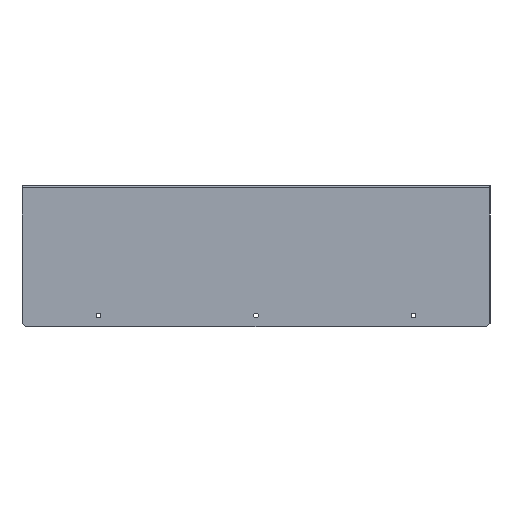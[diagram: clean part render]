
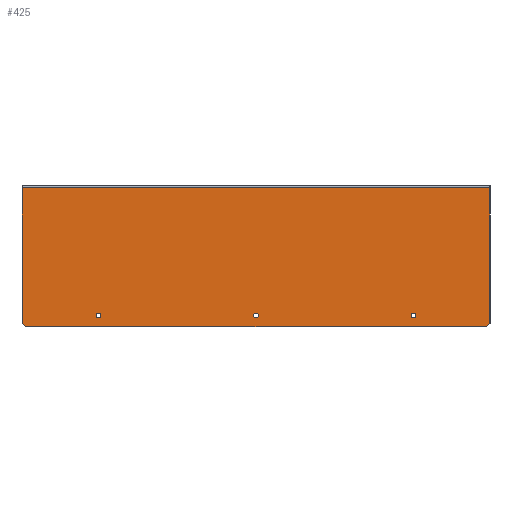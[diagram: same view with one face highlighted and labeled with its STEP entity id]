
A CAD part, left-side view. The second image highlights one B-rep face of the part: STEP entity #425.
In plain terms, the highlighted planar face has unit normal (-1, 0, 0).
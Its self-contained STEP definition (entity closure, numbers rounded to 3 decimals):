
#19 = CIRCLE ( 'NONE', #1746, 2.1 ) ;
#21 = EDGE_LOOP ( 'NONE', ( #781, #1698 ) ) ;
#29 = VERTEX_POINT ( 'NONE', #1299 ) ;
#60 = EDGE_CURVE ( 'NONE', #1209, #762, #872, .T. ) ;
#79 = VERTEX_POINT ( 'NONE', #1272 ) ;
#90 = FACE_OUTER_BOUND ( 'NONE', #1132, .T. ) ;
#97 = CARTESIAN_POINT ( 'NONE',  ( -63.814, -94.025, -11.418 ) ) ;
#105 = CARTESIAN_POINT ( 'NONE',  ( -63.814, -97.025, -23.846 ) ) ;
#123 = DIRECTION ( 'NONE',  ( 0., 0., -1. ) ) ;
#130 = DIRECTION ( 'NONE',  ( 0., 0., -1. ) ) ;
#131 = DIRECTION ( 'NONE',  ( 0., 0., -1. ) ) ;
#198 = VERTEX_POINT ( 'NONE', #212 ) ;
#205 = DIRECTION ( 'NONE',  ( 0., 0., -1. ) ) ;
#212 = CARTESIAN_POINT ( 'NONE',  ( -63.814, 236.054, 0.328 ) ) ;
#216 = ORIENTED_EDGE ( 'NONE', *, *, #1431, .T. ) ;
#223 = EDGE_CURVE ( 'NONE', #29, #1321, #19, .T. ) ;
#227 = CARTESIAN_POINT ( 'NONE',  ( -63.814, -104.975, -0.468 ) ) ;
#233 = CIRCLE ( 'NONE', #1259, 2.1 ) ;
#234 = DIRECTION ( 'NONE',  ( 0., 0., 1. ) ) ;
#236 = DIRECTION ( 'NONE',  ( 0., 1., 0. ) ) ;
#244 = CARTESIAN_POINT ( 'NONE',  ( -63.814, 301.134, 1.257 ) ) ;
#249 = FACE_BOUND ( 'NONE', #1678, .T. ) ;
#262 = DIRECTION ( 'NONE',  ( 1., 0., 0. ) ) ;
#281 = CARTESIAN_POINT ( 'NONE',  ( -63.814, -31.946, -1.772 ) ) ;
#286 = LINE ( 'NONE', #1673, #1568 ) ;
#345 = DIRECTION ( 'NONE',  ( 1., 0., 0. ) ) ;
#355 = AXIS2_PLACEMENT_3D ( 'NONE', #1664, #1374, #131 ) ;
#358 = CARTESIAN_POINT ( 'NONE',  ( -63.814, -97.025, 106.789 ) ) ;
#360 = CIRCLE ( 'NONE', #1389, 2.1 ) ;
#383 = DIRECTION ( 'NONE',  ( 0., 0., -1. ) ) ;
#385 = DIRECTION ( 'NONE',  ( 0., 0., -1. ) ) ;
#414 = DIRECTION ( 'NONE',  ( 0., 0.707, 0.707 ) ) ;
#418 = DIRECTION ( 'NONE',  ( 0., 0., -1. ) ) ;
#424 = DIRECTION ( 'NONE',  ( 0., -1., 0. ) ) ;
#425 = ADVANCED_FACE ( 'NONE', ( #675, #90, #1098, #249 ), #1088, .F. ) ;
#480 = CARTESIAN_POINT ( 'NONE',  ( -63.814, -31.946, 0.328 ) ) ;
#489 = VECTOR ( 'NONE', #424, 1000. ) ;
#517 = DIRECTION ( 'NONE',  ( 1., 0., 0. ) ) ;
#518 = ORIENTED_EDGE ( 'NONE', *, *, #657, .T. ) ;
#579 = EDGE_CURVE ( 'NONE', #1233, #754, #360, .T. ) ;
#593 = ORIENTED_EDGE ( 'NONE', *, *, #1124, .T. ) ;
#604 = EDGE_CURVE ( 'NONE', #1209, #680, #286, .T. ) ;
#605 = CARTESIAN_POINT ( 'NONE',  ( -63.814, 2.56, -11.418 ) ) ;
#642 = LINE ( 'NONE', #1491, #1289 ) ;
#655 = CIRCLE ( 'NONE', #1571, 2.1 ) ;
#657 = EDGE_CURVE ( 'NONE', #79, #680, #1814, .T. ) ;
#660 = CARTESIAN_POINT ( 'NONE',  ( -63.814, -122.683, 0.723 ) ) ;
#675 = FACE_BOUND ( 'NONE', #21, .T. ) ;
#680 = VERTEX_POINT ( 'NONE', #989 ) ;
#691 = ORIENTED_EDGE ( 'NONE', *, *, #1102, .T. ) ;
#754 = VERTEX_POINT ( 'NONE', #1254 ) ;
#762 = VERTEX_POINT ( 'NONE', #97 ) ;
#781 = ORIENTED_EDGE ( 'NONE', *, *, #223, .T. ) ;
#824 = DIRECTION ( 'NONE',  ( 1., 0., 0. ) ) ;
#828 = CARTESIAN_POINT ( 'NONE',  ( -63.814, 102.054, -1.772 ) ) ;
#850 = ORIENTED_EDGE ( 'NONE', *, *, #579, .T. ) ;
#859 = CARTESIAN_POINT ( 'NONE',  ( -63.814, 298.134, -11.418 ) ) ;
#872 = LINE ( 'NONE', #605, #489 ) ;
#895 = ORIENTED_EDGE ( 'NONE', *, *, #604, .F. ) ;
#899 = VERTEX_POINT ( 'NONE', #358 ) ;
#974 = CIRCLE ( 'NONE', #1208, 2.1 ) ;
#989 = CARTESIAN_POINT ( 'NONE',  ( -63.814, 301.134, -8.418 ) ) ;
#1065 = LINE ( 'NONE', #227, #1128 ) ;
#1069 = ORIENTED_EDGE ( 'NONE', *, *, #60, .T. ) ;
#1085 = CARTESIAN_POINT ( 'NONE',  ( -63.814, 236.054, -3.872 ) ) ;
#1088 = PLANE ( 'NONE',  #1683 ) ;
#1098 = FACE_BOUND ( 'NONE', #1728, .T. ) ;
#1102 = EDGE_CURVE ( 'NONE', #198, #1549, #1154, .T. ) ;
#1107 = VERTEX_POINT ( 'NONE', #1790 ) ;
#1116 = CARTESIAN_POINT ( 'NONE',  ( -63.814, 102.054, -1.772 ) ) ;
#1118 = CARTESIAN_POINT ( 'NONE',  ( -63.814, 102.054, 0.328 ) ) ;
#1124 = EDGE_CURVE ( 'NONE', #1107, #899, #1638, .T. ) ;
#1128 = VECTOR ( 'NONE', #1766, 1000. ) ;
#1132 = EDGE_LOOP ( 'NONE', ( #1069, #1623, #593, #216, #518, #895 ) ) ;
#1154 = CIRCLE ( 'NONE', #355, 2.1 ) ;
#1192 = ORIENTED_EDGE ( 'NONE', *, *, #1488, .T. ) ;
#1208 = AXIS2_PLACEMENT_3D ( 'NONE', #281, #262, #123 ) ;
#1209 = VERTEX_POINT ( 'NONE', #859 ) ;
#1233 = VERTEX_POINT ( 'NONE', #1118 ) ;
#1254 = CARTESIAN_POINT ( 'NONE',  ( -63.814, 102.054, -3.872 ) ) ;
#1259 = AXIS2_PLACEMENT_3D ( 'NONE', #828, #517, #383 ) ;
#1272 = CARTESIAN_POINT ( 'NONE',  ( -63.814, 301.134, 106.789 ) ) ;
#1284 = DIRECTION ( 'NONE',  ( 0., 0., -1. ) ) ;
#1289 = VECTOR ( 'NONE', #236, 1000. ) ;
#1299 = CARTESIAN_POINT ( 'NONE',  ( -63.814, -31.946, -3.872 ) ) ;
#1321 = VERTEX_POINT ( 'NONE', #480 ) ;
#1327 = VECTOR ( 'NONE', #234, 1000. ) ;
#1369 = EDGE_CURVE ( 'NONE', #1107, #762, #1065, .T. ) ;
#1374 = DIRECTION ( 'NONE',  ( 1., 0., 0. ) ) ;
#1388 = DIRECTION ( 'NONE',  ( 1., 0., 0. ) ) ;
#1389 = AXIS2_PLACEMENT_3D ( 'NONE', #1116, #1388, #130 ) ;
#1431 = EDGE_CURVE ( 'NONE', #899, #79, #642, .T. ) ;
#1461 = CARTESIAN_POINT ( 'NONE',  ( -63.814, -31.946, -1.772 ) ) ;
#1488 = EDGE_CURVE ( 'NONE', #754, #1233, #233, .T. ) ;
#1491 = CARTESIAN_POINT ( 'NONE',  ( -63.814, 87.375, 106.789 ) ) ;
#1497 = EDGE_CURVE ( 'NONE', #1321, #29, #974, .T. ) ;
#1549 = VERTEX_POINT ( 'NONE', #1085 ) ;
#1568 = VECTOR ( 'NONE', #414, 1000. ) ;
#1571 = AXIS2_PLACEMENT_3D ( 'NONE', #1695, #1712, #1284 ) ;
#1623 = ORIENTED_EDGE ( 'NONE', *, *, #1369, .F. ) ;
#1638 = LINE ( 'NONE', #105, #1327 ) ;
#1653 = VECTOR ( 'NONE', #418, 1000. ) ;
#1661 = EDGE_CURVE ( 'NONE', #1549, #198, #655, .T. ) ;
#1664 = CARTESIAN_POINT ( 'NONE',  ( -63.814, 236.054, -1.772 ) ) ;
#1673 = CARTESIAN_POINT ( 'NONE',  ( -63.814, 197.715, -111.837 ) ) ;
#1678 = EDGE_LOOP ( 'NONE', ( #1786, #691 ) ) ;
#1683 = AXIS2_PLACEMENT_3D ( 'NONE', #660, #824, #385 ) ;
#1695 = CARTESIAN_POINT ( 'NONE',  ( -63.814, 236.054, -1.772 ) ) ;
#1698 = ORIENTED_EDGE ( 'NONE', *, *, #1497, .T. ) ;
#1712 = DIRECTION ( 'NONE',  ( 1., 0., 0. ) ) ;
#1728 = EDGE_LOOP ( 'NONE', ( #1192, #850 ) ) ;
#1746 = AXIS2_PLACEMENT_3D ( 'NONE', #1461, #345, #205 ) ;
#1766 = DIRECTION ( 'NONE',  ( 0., 0.707, -0.707 ) ) ;
#1786 = ORIENTED_EDGE ( 'NONE', *, *, #1661, .T. ) ;
#1790 = CARTESIAN_POINT ( 'NONE',  ( -63.814, -97.025, -8.418 ) ) ;
#1814 = LINE ( 'NONE', #244, #1653 ) ;
